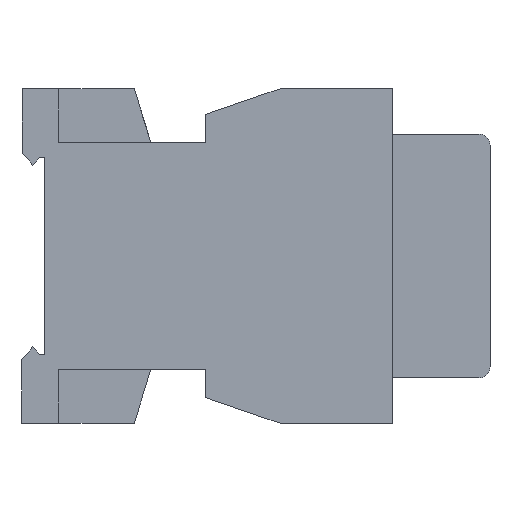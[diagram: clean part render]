
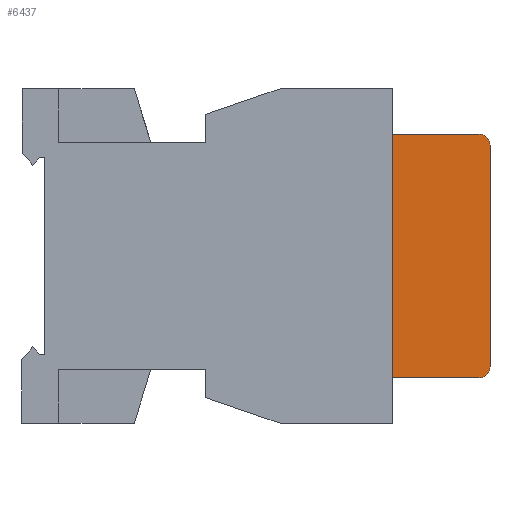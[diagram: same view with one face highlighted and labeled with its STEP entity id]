
A CAD part, left-side view. The second image highlights one B-rep face of the part: STEP entity #6437.
In plain terms, the highlighted planar face has unit normal (-1, 0, 0).
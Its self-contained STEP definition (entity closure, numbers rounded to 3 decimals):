
#337 = CIRCLE ( 'NONE', #8853, 2. ) ;
#366 = CARTESIAN_POINT ( 'NONE',  ( 133.552, -55.824, 40.316 ) ) ;
#826 = VECTOR ( 'NONE', #4631, 1000. ) ;
#1052 = VERTEX_POINT ( 'NONE', #5597 ) ;
#1326 = VERTEX_POINT ( 'NONE', #3903 ) ;
#1477 = EDGE_CURVE ( 'NONE', #1052, #3083, #4650, .T. ) ;
#1478 = DIRECTION ( 'NONE',  ( 0., 1., 0. ) ) ;
#1521 = ORIENTED_EDGE ( 'NONE', *, *, #10108, .T. ) ;
#1525 = DIRECTION ( 'NONE',  ( 0., 0., 1. ) ) ;
#1688 = CARTESIAN_POINT ( 'NONE',  ( 133.552, -55.824, 48.316 ) ) ;
#1969 = DIRECTION ( 'NONE',  ( 0., 0., 1. ) ) ;
#2123 = PLANE ( 'NONE',  #10570 ) ;
#2267 = CARTESIAN_POINT ( 'NONE',  ( 133.552, -55.824, -2.684 ) ) ;
#2282 = DIRECTION ( 'NONE',  ( -1., 0., 0. ) ) ;
#2661 = DIRECTION ( 'NONE',  ( 0., 0., 1. ) ) ;
#2753 = CARTESIAN_POINT ( 'NONE',  ( 133.552, -73.024, -2.684 ) ) ;
#2782 = DIRECTION ( 'NONE',  ( -1., 0., 0. ) ) ;
#3077 = CARTESIAN_POINT ( 'NONE',  ( 133.552, -55.824, 40.316 ) ) ;
#3083 = VERTEX_POINT ( 'NONE', #6160 ) ;
#3125 = ORIENTED_EDGE ( 'NONE', *, *, #7924, .F. ) ;
#3214 = VERTEX_POINT ( 'NONE', #4836 ) ;
#3903 = CARTESIAN_POINT ( 'NONE',  ( 133.552, -71.024, -2.684 ) ) ;
#4622 = DIRECTION ( 'NONE',  ( 0., 1., 0. ) ) ;
#4631 = DIRECTION ( 'NONE',  ( 0., -1., 0. ) ) ;
#4650 = LINE ( 'NONE', #2753, #5941 ) ;
#4737 = CARTESIAN_POINT ( 'NONE',  ( 133.552, -55.824, -2.684 ) ) ;
#4836 = CARTESIAN_POINT ( 'NONE',  ( 133.552, -71.024, 40.316 ) ) ;
#5431 = ORIENTED_EDGE ( 'NONE', *, *, #8693, .T. ) ;
#5597 = CARTESIAN_POINT ( 'NONE',  ( 133.552, -73.024, -0.684 ) ) ;
#5632 = ORIENTED_EDGE ( 'NONE', *, *, #8809, .T. ) ;
#5941 = VECTOR ( 'NONE', #2661, 1000. ) ;
#6160 = CARTESIAN_POINT ( 'NONE',  ( 133.552, -73.024, 38.316 ) ) ;
#6437 = ADVANCED_FACE ( 'NONE', ( #10023 ), #2123, .T. ) ;
#6600 = CARTESIAN_POINT ( 'NONE',  ( 133.552, -71.024, 38.316 ) ) ;
#6663 = VERTEX_POINT ( 'NONE', #10712 ) ;
#7037 = DIRECTION ( 'NONE',  ( 0., 0., 1. ) ) ;
#7086 = CARTESIAN_POINT ( 'NONE',  ( 133.552, -71.024, -0.684 ) ) ;
#7129 = DIRECTION ( 'NONE',  ( -1., 0., 0. ) ) ;
#7151 = VECTOR ( 'NONE', #4622, 1000. ) ;
#7924 = EDGE_CURVE ( 'NONE', #6663, #11028, #11168, .T. ) ;
#8469 = LINE ( 'NONE', #3077, #7151 ) ;
#8693 = EDGE_CURVE ( 'NONE', #3214, #11028, #8469, .T. ) ;
#8809 = EDGE_CURVE ( 'NONE', #3083, #3214, #9243, .T. ) ;
#8853 = AXIS2_PLACEMENT_3D ( 'NONE', #7086, #7129, #7037 ) ;
#8982 = AXIS2_PLACEMENT_3D ( 'NONE', #6600, #2782, #1478 ) ;
#9015 = VECTOR ( 'NONE', #1525, 1000. ) ;
#9243 = CIRCLE ( 'NONE', #8982, 2. ) ;
#10023 = FACE_OUTER_BOUND ( 'NONE', #10122, .T. ) ;
#10098 = ORIENTED_EDGE ( 'NONE', *, *, #10382, .T. ) ;
#10108 = EDGE_CURVE ( 'NONE', #1326, #1052, #337, .T. ) ;
#10122 = EDGE_LOOP ( 'NONE', ( #3125, #10098, #1521, #10759, #5632, #5431 ) ) ;
#10382 = EDGE_CURVE ( 'NONE', #6663, #1326, #10795, .T. ) ;
#10570 = AXIS2_PLACEMENT_3D ( 'NONE', #2267, #2282, #1969 ) ;
#10712 = CARTESIAN_POINT ( 'NONE',  ( 133.552, -55.824, -2.684 ) ) ;
#10759 = ORIENTED_EDGE ( 'NONE', *, *, #1477, .T. ) ;
#10795 = LINE ( 'NONE', #4737, #826 ) ;
#11028 = VERTEX_POINT ( 'NONE', #366 ) ;
#11168 = LINE ( 'NONE', #1688, #9015 ) ;
